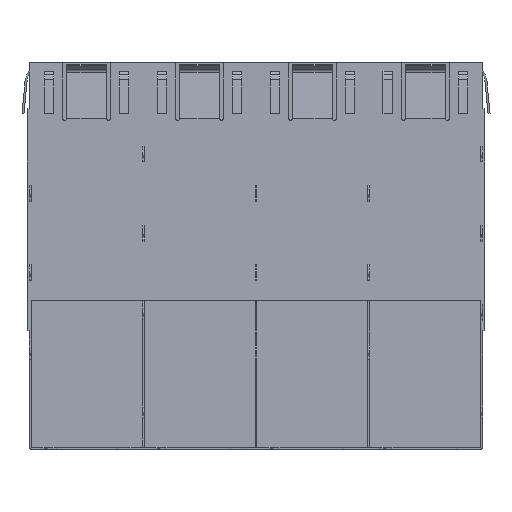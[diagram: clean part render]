
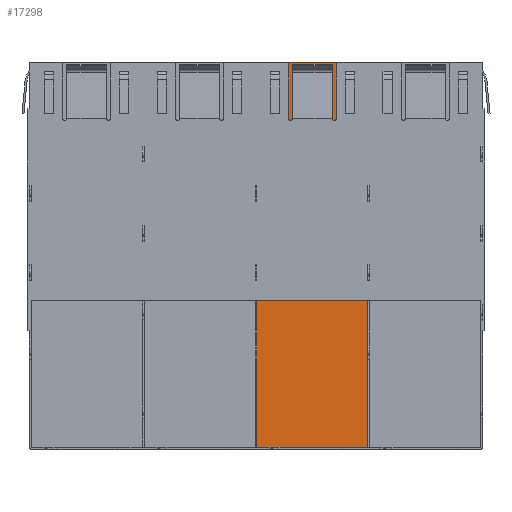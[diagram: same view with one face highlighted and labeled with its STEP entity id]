
A CAD part, front view. The second image highlights one B-rep face of the part: STEP entity #17298.
In plain terms, the highlighted planar face has unit normal (0, -1, 0).
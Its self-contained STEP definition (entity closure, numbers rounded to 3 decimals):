
#344 = LINE ( 'NONE', #6654, #5909 ) ;
#712 = VECTOR ( 'NONE', #29977, 1000. ) ;
#1350 = VECTOR ( 'NONE', #9281, 1000. ) ;
#1542 = CARTESIAN_POINT ( 'NONE',  ( 14.125, 9.2, 0. ) ) ;
#2264 = EDGE_CURVE ( 'NONE', #21413, #11049, #3238, .T. ) ;
#2660 = CARTESIAN_POINT ( 'NONE',  ( 14.125, 9.2, 8.953 ) ) ;
#2966 = EDGE_CURVE ( 'NONE', #21413, #28355, #13174, .T. ) ;
#3238 = LINE ( 'NONE', #2660, #8067 ) ;
#4000 = CARTESIAN_POINT ( 'NONE',  ( 28.325, 9.2, -48.5 ) ) ;
#5040 = DIRECTION ( 'NONE',  ( 0., 0., -1. ) ) ;
#5909 = VECTOR ( 'NONE', #20804, 1000. ) ;
#6654 = CARTESIAN_POINT ( 'NONE',  ( 0.125, 9.2, 8.953 ) ) ;
#7602 = EDGE_CURVE ( 'NONE', #28355, #18776, #344, .T. ) ;
#8067 = VECTOR ( 'NONE', #5040, 1000. ) ;
#9281 = DIRECTION ( 'NONE',  ( -1., 0., 0. ) ) ;
#10295 = DIRECTION ( 'NONE',  ( 0., 0., 1. ) ) ;
#11049 = VERTEX_POINT ( 'NONE', #12820 ) ;
#12218 = AXIS2_PLACEMENT_3D ( 'NONE', #17296, #24434, #10295 ) ;
#12820 = CARTESIAN_POINT ( 'NONE',  ( 14.125, 9.2, -48.5 ) ) ;
#12937 = ORIENTED_EDGE ( 'NONE', *, *, #2966, .T. ) ;
#13174 = LINE ( 'NONE', #28135, #1350 ) ;
#13282 = LINE ( 'NONE', #4000, #712 ) ;
#14174 = EDGE_CURVE ( 'NONE', #11049, #18776, #13282, .T. ) ;
#17144 = ORIENTED_EDGE ( 'NONE', *, *, #7602, .T. ) ;
#17296 = CARTESIAN_POINT ( 'NONE',  ( 28.325, 9.2, -106.201 ) ) ;
#17298 = ADVANCED_FACE ( 'NONE', ( #25663 ), #26699, .F. ) ;
#18299 = CARTESIAN_POINT ( 'NONE',  ( 0.125, 9.2, 0. ) ) ;
#18776 = VERTEX_POINT ( 'NONE', #19661 ) ;
#19661 = CARTESIAN_POINT ( 'NONE',  ( 0.125, 9.2, -48.5 ) ) ;
#20804 = DIRECTION ( 'NONE',  ( 0., 0., -1. ) ) ;
#21413 = VERTEX_POINT ( 'NONE', #1542 ) ;
#24434 = DIRECTION ( 'NONE',  ( 0., 1., 0. ) ) ;
#25663 = FACE_OUTER_BOUND ( 'NONE', #29711, .T. ) ;
#26699 = PLANE ( 'NONE',  #12218 ) ;
#27207 = ORIENTED_EDGE ( 'NONE', *, *, #2264, .F. ) ;
#27829 = ORIENTED_EDGE ( 'NONE', *, *, #14174, .F. ) ;
#28135 = CARTESIAN_POINT ( 'NONE',  ( 28.325, 9.2, 0. ) ) ;
#28355 = VERTEX_POINT ( 'NONE', #18299 ) ;
#29711 = EDGE_LOOP ( 'NONE', ( #27207, #12937, #17144, #27829 ) ) ;
#29977 = DIRECTION ( 'NONE',  ( -1., 0., 0. ) ) ;
